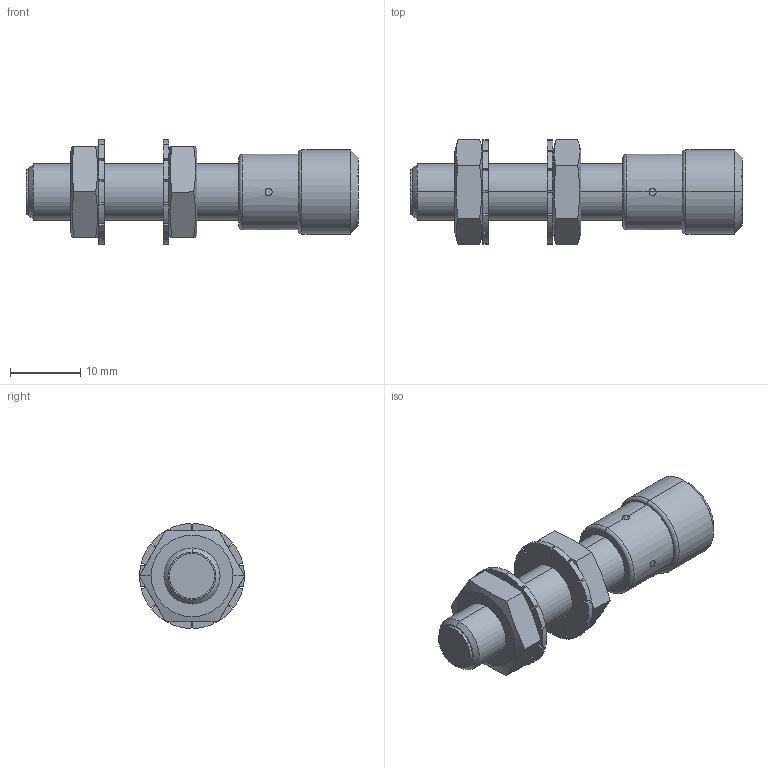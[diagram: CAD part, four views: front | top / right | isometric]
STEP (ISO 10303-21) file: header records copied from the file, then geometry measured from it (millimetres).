
FILE_DESCRIPTION (( 'STEP AP203' ), '1' );
FILE_NAME ('Bi-EM08-X-H1.step', '2016-08-02T18:24:37', ( 'Turck User' ), ( '' ), 'SwSTEP 2.0', 'SolidWorks 2015', '' );
FILE_SCHEMA (( 'CONFIG_CONTROL_DESIGN' ));
Length unit declared in the file: millimetre
Products named in the file (2): Bi-EM08-X-H1
Bounding box: 47.4 x 15.01 x 15 mm (x, y, z)
Volume: 3692.8 mm3; surface area: 2790.3 mm2
Topology: 1 solids, 1 shells, 173 faces, 453 edges, 292 vertices
Faces by surface type: plane 82, cylinder 67, cone 12, sphere 8, torus 4
Entity records: 5506 total; most frequent: CARTESIAN_POINT 1144, DIRECTION 879, ORIENTED_EDGE 874, EDGE_CURVE 437, AXIS2_PLACEMENT_3D 311, VERTEX_POINT 284, LINE 257, VECTOR 257
